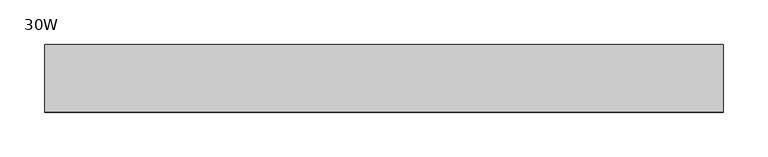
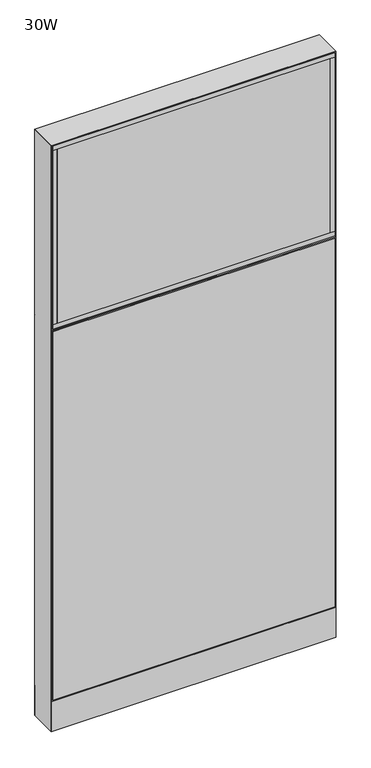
"""IFC4 building model written with IfcOpenShell, lengths in millimetres: furniture geometry, Steelcase - Montage - Frame - 65H - Enhanced Monolithic - Base Cavity : 30W."""

from ifc_helpers import new_model, si_unit, point, frame, frame_2d, origin, origin_with_axes, place, context, project, spatial, polyline, circle_curve, trimmed, segment, composite_curve, outline, extrude, faceted_brep, source, transform, mapped, element, save


def furniture_30w_3058daea(model_context):
    return source(origin(), model_context, "Body", "SolidModel", [
        faceted_brep([(-5.4e-06, 38.102627, 1136.6500027), (6.3499917, 31.7526299, 1142.9999997), (755.6500047, 31.7526299, 1142.9999997), (762.0, 38.1026253, 1136.6500044), (755.6500047, 31.7526299, 1130.3000003), (6.3499917, 31.7526299, 1130.3000003)], [[[0, 1, 2, 3]], [[3, 4, 5, 0]], [[1, 5, 4, 2]], [[0, 5, 1]], [[2, 4, 3]]]),
        extrude(outline(polyline([(746.125, 38.1000015), (746.125, 31.7500017), (15.875, 31.7500017), (15.875, 38.1000015), (746.125, 38.1000015)])), frame((0.0, 0.0, 1152.525), z_axis=(0.0, 0.0, 1.0), x_axis=(1.0, 0.0, 0.0)), (0.0, 0.0, 1.0), 492.125),
        extrude(outline(polyline([(746.125, -31.7499985), (746.125, -38.1000015), (15.875, -38.1000015), (15.875, -31.7499985), (746.125, -31.7499985)])), frame((0.0, 0.0, 1152.525), z_axis=(0.0, 0.0, 1.0), x_axis=(1.0, 0.0, 0.0)), (0.0, 0.0, 1.0), 492.125),
        extrude(outline(polyline([(758.825, -38.1000015), (746.125, -38.1000015), (746.125, 38.1000015), (758.825, 38.1000015), (758.825, -38.1000015)])), frame((0.0, 0.0, 1152.525), z_axis=(0.0, 0.0, 1.0), x_axis=(1.0, 0.0, 0.0)), (0.0, 0.0, 1.0), 492.125),
        extrude(outline(polyline([(15.875, -38.1000015), (3.175, -38.1000015), (3.175, 38.1000015), (15.875, 38.1000015), (15.875, -38.1000015)])), frame((0.0, 0.0, 1152.525), z_axis=(0.0, 0.0, 1.0), x_axis=(1.0, 0.0, 0.0)), (0.0, 0.0, 1.0), 492.125),
        extrude(outline(polyline([(758.825, -38.1000015), (3.175, -38.1000015), (3.175, 38.1000015), (758.825, 38.1000015), (758.825, -38.1000015)])), frame((0.0, 0.0, 1139.825), z_axis=(0.0, 0.0, 1.0), x_axis=(1.0, 0.0, 0.0)), (0.0, 0.0, 1.0), 12.7),
        extrude(outline(polyline([(758.825, -38.1000015), (3.175, -38.1000015), (3.175, 38.1000015), (758.825, 38.1000015), (758.825, -38.1000015)])), frame((0.0, 0.0, 1644.65), z_axis=(0.0, 0.0, 1.0), x_axis=(1.0, 0.0, 0.0)), (0.0, 0.0, 1.0), 12.7),
        extrude(outline(polyline([(3.175, 31.7500194), (3.175, 38.1000194), (758.825, 38.1000194), (758.825, 31.7500194), (3.175, 31.7500194)])), frame((0.0, 0.0, 92.075), z_axis=(0.0, 0.0, 1.0), x_axis=(1.0, 0.0, 0.0)), (0.0, 0.0, 1.0), 1041.4),
        faceted_brep([(0.0, -38.1026297, 1136.65), (762.0, -38.1026297, 1136.65), (755.6500047, -31.7526299, 1142.9999997), (6.3499917, -31.7526299, 1142.9999997), (6.3499917, -31.7526299, 1130.3000003), (755.6500047, -31.7526299, 1130.3000003)], [[[0, 1, 2, 3]], [[1, 0, 4, 5]], [[3, 2, 5, 4]], [[0, 3, 4]], [[2, 1, 5]]]),
        extrude(outline(polyline([(746.125, -38.1000015), (15.875, -38.1000015), (15.875, -31.7500017), (746.125, -31.7500017), (746.125, -38.1000015)])), frame((0.0, 0.0, 1152.525), z_axis=(0.0, 0.0, 1.0), x_axis=(1.0, 0.0, 0.0)), (0.0, 0.0, 1.0), 492.125),
        extrude(outline(polyline([(746.125, 31.7499985), (15.875, 31.7499985), (15.875, 38.1000015), (746.125, 38.1000015), (746.125, 31.7499985)])), frame((0.0, 0.0, 1152.525), z_axis=(0.0, 0.0, 1.0), x_axis=(1.0, 0.0, 0.0)), (0.0, 0.0, 1.0), 492.125),
        extrude(outline(polyline([(758.825, 38.1000015), (758.825, -38.1000015), (746.125, -38.1000015), (746.125, 38.1000015), (758.825, 38.1000015)])), frame((0.0, 0.0, 1152.525), z_axis=(0.0, 0.0, 1.0), x_axis=(1.0, 0.0, 0.0)), (0.0, 0.0, 1.0), 492.125),
        extrude(outline(polyline([(15.875, 38.1000015), (15.875, -38.1000015), (3.175, -38.1000015), (3.175, 38.1000015), (15.875, 38.1000015)])), frame((0.0, 0.0, 1152.525), z_axis=(0.0, 0.0, 1.0), x_axis=(1.0, 0.0, 0.0)), (0.0, 0.0, 1.0), 492.125),
        extrude(outline(polyline([(758.825, 38.1000015), (758.825, -38.1000015), (3.175, -38.1000015), (3.175, 38.1000015), (758.825, 38.1000015)])), frame((0.0, 0.0, 1139.825), z_axis=(0.0, 0.0, 1.0), x_axis=(1.0, 0.0, 0.0)), (0.0, 0.0, 1.0), 12.7),
        extrude(outline(polyline([(758.825, 38.1000015), (758.825, -38.1000015), (3.175, -38.1000015), (3.175, 38.1000015), (758.825, 38.1000015)])), frame((0.0, 0.0, 1644.65), z_axis=(0.0, 0.0, 1.0), x_axis=(1.0, 0.0, 0.0)), (0.0, 0.0, 1.0), 12.7),
        extrude(outline(polyline([(3.175, -31.7500194), (758.825, -31.7500194), (758.825, -38.1000194), (3.175, -38.1000194), (3.175, -31.7500194)])), frame((0.0, 0.0, 92.075), z_axis=(0.0, 0.0, 1.0), x_axis=(1.0, 0.0, 0.0)), (0.0, 0.0, 1.0), 1041.4),
        extrude(outline(polyline([(6.350003, -31.7499985), (755.649997, -31.7499985), (762.0, -38.1000015), (0.0, -38.1000015), (6.350003, -31.7499985)])), frame((0.0, 0.0, 4.064), z_axis=(0.0, 0.0, 1.0), x_axis=(1.0, 0.0, 0.0)), (0.0, 0.0, 1.0), 84.835997),
        extrude(outline(polyline([(6.3500002, 31.7500017), (0.0, 38.1000015), (762.0, 38.1000015), (755.6500002, 31.7500017), (6.3500002, 31.7500017)])), frame((0.0, 0.0, 4.064), z_axis=(0.0, 0.0, 1.0), x_axis=(1.0, 0.0, 0.0)), (0.0, 0.0, 1.0), 84.835997),
        faceted_brep([(762.0, -38.1000015, 1660.525), (0.0, -38.1000015, 1660.525), (6.3500484, -31.749953, 1654.1749516), (755.6499516, -31.749953, 1654.1749516), (6.3500484, 31.749953, 1654.1749516), (755.6499516, 31.749953, 1654.1749516), (0.0, 38.1000015, 1660.525), (762.0, 38.1000015, 1660.525)], [[[0, 1, 2, 3]], [[3, 2, 4, 5]], [[6, 7, 5, 4]], [[1, 0, 7, 6]], [[2, 1, 6, 4]], [[0, 3, 5, 7]]]),
        extrude(outline(composite_curve([segment(trimmed(circle_curve(frame_2d((44.45, 0.0)), 15.24), [point((29.21, 0.0))], [point((59.69, 0.0))], False, "CARTESIAN"), True, "CONTINUOUS"), segment(trimmed(circle_curve(frame_2d((44.45, 0.0)), 15.24), [point((59.69, 0.0))], [point((29.21, 0.0))], False, "CARTESIAN"), True, "CONTINUOUS")], self_intersect=False)), origin_with_axes(), (0.0, 0.0, 1.0), 4.064),
        extrude(outline(composite_curve([segment(trimmed(circle_curve(frame_2d((717.55, 0.0)), 15.24), [point((702.31, 0.0))], [point((732.79, 0.0))], False, "CARTESIAN"), True, "CONTINUOUS"), segment(trimmed(circle_curve(frame_2d((717.55, 0.0)), 15.24), [point((732.79, 0.0))], [point((702.31, 0.0))], False, "CARTESIAN"), True, "CONTINUOUS")], self_intersect=False)), origin_with_axes(), (0.0, 0.0, 1.0), 4.064),
        faceted_brep([(762.0, -38.1000106, 4.064), (762.0, 38.1000015, 4.064), (762.0, 38.1000015, 1660.525), (762.0, -38.1000106, 1660.5249637), (0.0, 38.1000015, 4.064), (0.0, -38.1000015, 4.064), (0.0, -38.1000015, 1660.525), (0.0, 38.1000015, 1660.525), (755.6499879, 31.7500017, 606.425), (6.35, 31.7500017, 606.425), (6.3499998, 31.7500017, 619.125), (755.6499879, 31.7500017, 619.125), (6.35, -31.7499985, 619.125), (755.6499879, -31.7499985, 619.125), (6.350003, -31.7499985, 606.425), (755.6499879, -31.7499985, 606.425), (755.6499879, 31.7500017, 1130.3), (6.35, 31.7500017, 1130.3), (6.3499998, 31.7500017, 1143.0), (755.6499879, 31.7500017, 1143.0), (6.35, -31.7499985, 1143.0), (755.6499879, -31.7499985, 1143.0), (6.350003, -31.7499985, 1130.3), (755.6499879, -31.7499985, 1130.3), (6.35, 31.7500015, 4.064), (6.35, -31.7500015, 4.064), (755.6499879, 31.7499894, 4.064), (755.6499879, -31.7499985, 4.064), (6.35, 31.7500015, 1654.175), (6.35, -31.7500015, 1654.175), (755.6499879, -31.7499985, 1654.1749516), (755.6499879, 31.7499895, 1654.1749516)], [[[0, 1, 2, 3]], [[4, 5, 6, 7]], [[8, 9, 10, 11]], [[11, 10, 12, 13]], [[13, 12, 14, 15]], [[9, 8, 15, 14]], [[16, 17, 18, 19]], [[19, 18, 20, 21]], [[21, 20, 22, 23]], [[17, 16, 23, 22]], [[24, 25, 5, 4]], [[26, 1, 0, 27]], [[24, 4, 7, 28, 18, 17, 10, 9]], [[5, 25, 14, 12, 22, 20, 29, 6]], [[20, 18, 28, 29]], [[25, 24, 9, 14]], [[10, 17, 22, 12]], [[19, 21, 30, 31]], [[26, 27, 15, 8]], [[16, 11, 13, 23]], [[27, 0, 3, 30, 21, 23, 13, 15]], [[1, 26, 8, 11, 16, 19, 31, 2]], [[7, 6, 29, 28]], [[3, 2, 31, 30]]]),
    ])


if __name__ == "__main__":
    model = new_model("IFC4")
    model_context = context("Model", 3, world=origin())
    ifc_project = project(units=[si_unit("LENGTHUNIT", "METRE", prefix="MILLI")], contexts=[model_context])
    site = spatial("IfcSite", under=ifc_project)
    building = spatial("IfcBuilding", under=site)
    placement = place(None, origin())
    furniture_30w_shape = furniture_30w_3058daea(model_context)
    element("IfcFurniture", 1, ObjectType="Steelcase - Montage - Frame - 65H - Enhanced Monolithic - Base Cavity : 30W", at=placement, inside=building, context=model_context, shape_type="MappedRepresentation", body=[
        mapped(furniture_30w_shape, transform((0.0, 0.0, 0.0), x_axis=(1.0, 0.0, 0.0), y_axis=(0.0, 1.0, 0.0), z_axis=(0.0, 0.0, 1.0))),
    ])
    save(model, "model.ifc")
